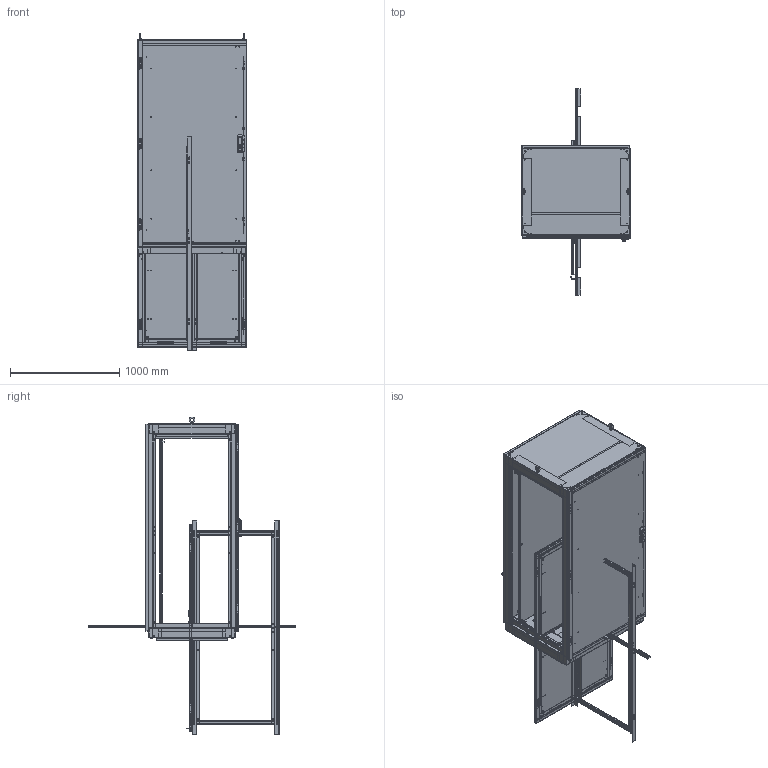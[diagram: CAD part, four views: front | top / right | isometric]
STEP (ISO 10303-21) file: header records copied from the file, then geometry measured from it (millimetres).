
FILE_DESCRIPTION( ( 'Unknown' ), '1' );
FILE_NAME( 'Q:/IME/WEB DRAWINGS/IME18108.stp', 'Unknown', ( 'Unknown' ), ( 'Unknown' ), 'XStep 1.0', 'Unknown', ' ' );
FILE_SCHEMA( ( 'CONFIG_CONTROL_DESIGN' ) );
Length unit declared in the file: millimetre
Products named in the file (99): Assem1; Assem2; Assem3; Assem4; Assem5; Assem6; Assem7; Assem8; Assem9; Assem10; Assem11; Assem12; Assem13; Assem14; Assem15; Assem16; Assem17; Assem18; 1; 2; 3; 4; 5; 6; 7; 8; 9; 10; 11; 12; 13; 14; 15; 16; 17; 18; 19; 20; 21; 22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
Bounding box: 1000.32 x 1892.5 x 2917.13 mm (x, y, z)
Volume: 63508423.4 mm3; surface area: 68761094.3 mm2
Topology: 387 solids, 393 shells, 9607 faces, 24570 edges, 16071 vertices
Faces by surface type: plane 6037, cylinder 2833, torus 334, cone 264, bspline 139
Full cylindrical faces by diameter (mm): 2.464 x12, 3.175 x3, 3.454 x16, 3.607 x12, 4.166 x32, 4.216 x12, 4.318 x12, 4.826 x16, 4.851 x8, 4.928 x12, 5.08 x24, 5.105 x12, 5.156 x12, 5.537 x86, 5.893 x8, 5.994 x14, 6 x32, 6.35 x46, 6.411 x15, 7.137 x16, 7.366 x12, 7.442 x12, 7.62 x18, 7.938 x80, 8.001 x24, 8.026 x8, 9.525 x18, 9.804 x23, 10.999 x8, 11.113 x12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
Entity records: 75269 total; most frequent: CARTESIAN_POINT 16612, DIRECTION 11337, ORIENTED_EDGE 10710, EDGE_CURVE 5355, AXIS2_PLACEMENT_3D 3824, LINE 3689, VECTOR 3689, VERTEX_POINT 3641
